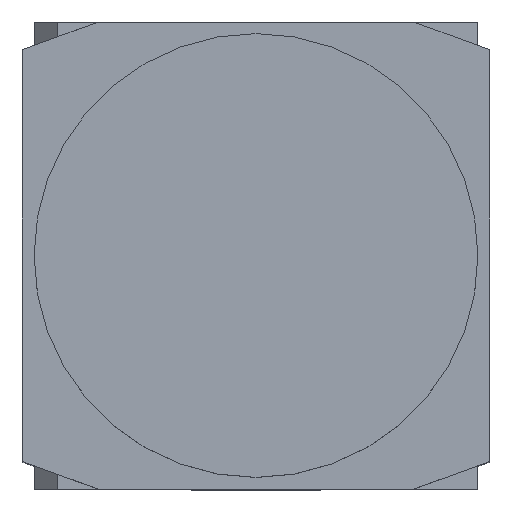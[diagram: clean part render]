
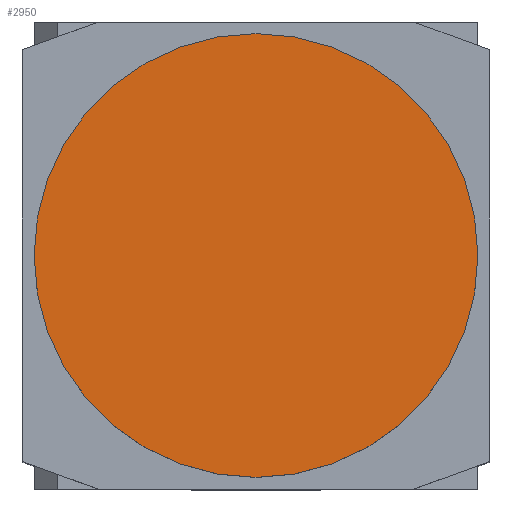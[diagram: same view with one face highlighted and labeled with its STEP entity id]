
A CAD part, top view. The second image highlights one B-rep face of the part: STEP entity #2950.
In plain terms, the highlighted planar face has unit normal (0, 0, 1).
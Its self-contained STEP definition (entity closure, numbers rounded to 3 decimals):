
#1219=CARTESIAN_POINT('',(-19.0,0.,38.0));
#1220=VERTEX_POINT('',#1219);
#1236=CARTESIAN_POINT('',(19.0,0.,38.0));
#1237=VERTEX_POINT('',#1236);
#1244=CARTESIAN_POINT('',(0.0,0.0,38.0));
#1245=DIRECTION('',(0.0,0.0,-1.0));
#1246=DIRECTION('',(-1.0,0.0,0.0));
#1247=AXIS2_PLACEMENT_3D('',#1244,#1245,#1246);
#1248=CIRCLE('',#1247,19.0);
#1249=EDGE_CURVE('',#1237,#1220,#1248,.T.);
#2935=CARTESIAN_POINT('',(0.0,0.0,38.0));
#2936=DIRECTION('',(0.0,0.0,-1.0));
#2937=DIRECTION('',(-1.0,0.0,0.0));
#2938=AXIS2_PLACEMENT_3D('',#2935,#2936,#2937);
#2939=PLANE('',#2938);
#2940=ORIENTED_EDGE('',*,*,#1249,.F.);
#2941=CARTESIAN_POINT('',(0.0,0.0,38.0));
#2942=DIRECTION('',(0.0,0.0,-1.0));
#2943=DIRECTION('',(-1.0,0.0,0.0));
#2944=AXIS2_PLACEMENT_3D('',#2941,#2942,#2943);
#2945=CIRCLE('',#2944,19.0);
#2946=EDGE_CURVE('',#1220,#1237,#2945,.T.);
#2947=ORIENTED_EDGE('',*,*,#2946,.F.);
#2948=EDGE_LOOP('',(#2940,#2947));
#2949=FACE_OUTER_BOUND('',#2948,.T.);
#2950=ADVANCED_FACE('',(#2949),#2939,.F.);
